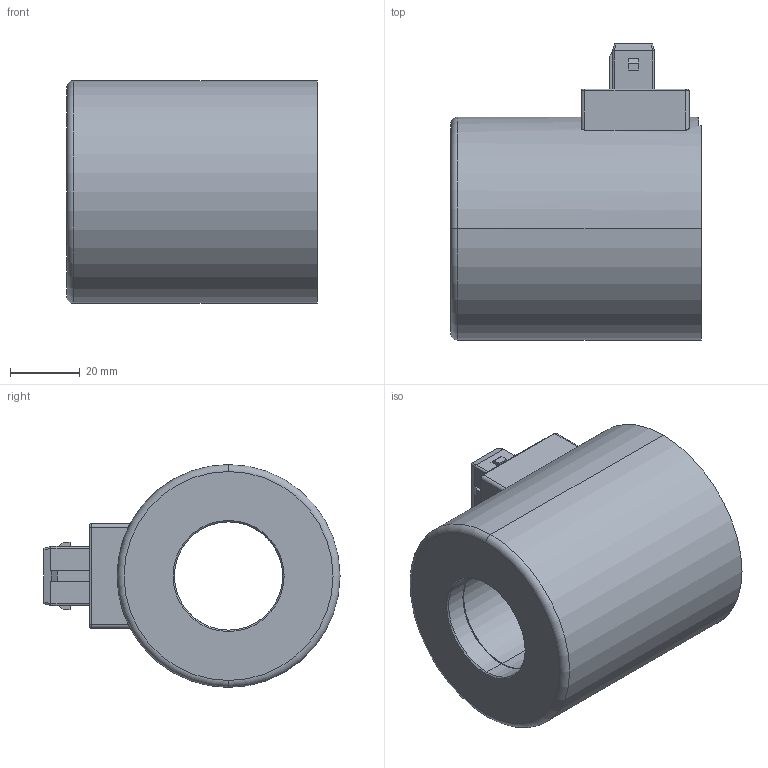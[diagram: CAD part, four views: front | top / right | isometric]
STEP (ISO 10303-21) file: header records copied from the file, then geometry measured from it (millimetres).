
FILE_DESCRIPTION (( 'STEP AP214' ), '1' );
FILE_NAME ('WJ_34_31x72.STEP', '2015-02-12T14:52:58', ( '' ), ( '' ), 'SwSTEP 2.0', 'SolidWorks 2014', '' );
FILE_SCHEMA (( 'AUTOMOTIVE_DESIGN' ));
Length unit declared in the file: millimetre
Products named in the file (2): WJ_34_31x72
Bounding box: 72 x 85 x 64 mm (x, y, z)
Volume: 185808.6 mm3; surface area: 63613.7 mm2
Topology: 3 solids, 5 shells, 156 faces, 371 edges, 232 vertices
Faces by surface type: plane 68, cylinder 58, torus 14, cone 12, bspline 4
Entity records: 6352 total; most frequent: CARTESIAN_POINT 917, DIRECTION 793, ORIENTED_EDGE 742, EDGE_CURVE 371, AXIS2_PLACEMENT_3D 292, VERTEX_POINT 232, LINE 209, VECTOR 209
